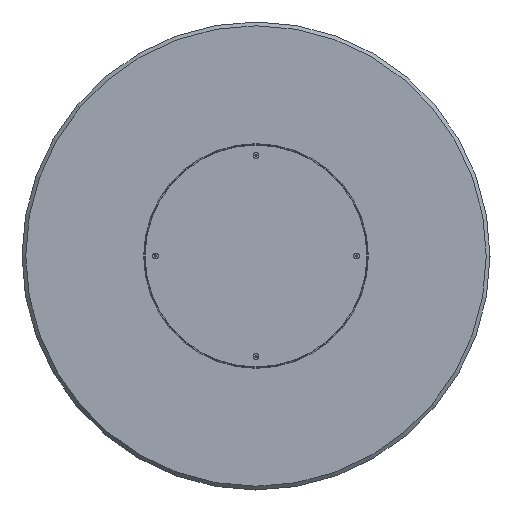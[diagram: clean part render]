
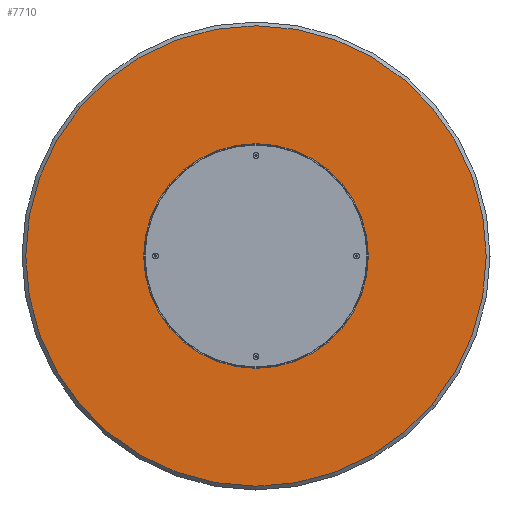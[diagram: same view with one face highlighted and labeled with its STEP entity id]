
A CAD part, front view. The second image highlights one B-rep face of the part: STEP entity #7710.
In plain terms, the highlighted planar face has unit normal (0, -1, 0).
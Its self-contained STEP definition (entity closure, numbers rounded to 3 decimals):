
#98 = DIRECTION ( 'NONE',  ( 0., 0., -1. ) ) ;
#197 = CARTESIAN_POINT ( 'NONE',  ( 0., 0., 0. ) ) ;
#894 = VERTEX_POINT ( 'NONE', #2449 ) ;
#1584 = CIRCLE ( 'NONE', #9527, 492. ) ;
#1903 = CARTESIAN_POINT ( 'NONE',  ( 0., 0., 0. ) ) ;
#2214 = AXIS2_PLACEMENT_3D ( 'NONE', #197, #9161, #98 ) ;
#2302 = ORIENTED_EDGE ( 'NONE', *, *, #3411, .T. ) ;
#2305 = DIRECTION ( 'NONE',  ( 0., -1., 0. ) ) ;
#2425 = FACE_OUTER_BOUND ( 'NONE', #5156, .T. ) ;
#2449 = CARTESIAN_POINT ( 'NONE',  ( 0., 0., -492. ) ) ;
#3372 = DIRECTION ( 'NONE',  ( 0., 0., -1. ) ) ;
#3411 = EDGE_CURVE ( 'NONE', #894, #5314, #8307, .T. ) ;
#4724 = EDGE_CURVE ( 'NONE', #5314, #894, #1584, .T. ) ;
#5061 = CARTESIAN_POINT ( 'NONE',  ( 0., 0., 492. ) ) ;
#5156 = EDGE_LOOP ( 'NONE', ( #7432, #2302 ) ) ;
#5314 = VERTEX_POINT ( 'NONE', #5061 ) ;
#5891 = DIRECTION ( 'NONE',  ( 0., 0., -1. ) ) ;
#6159 = PLANE ( 'NONE',  #2214 ) ;
#6362 = DIRECTION ( 'NONE',  ( 0., -1., 0. ) ) ;
#6605 = AXIS2_PLACEMENT_3D ( 'NONE', #8989, #2305, #5891 ) ;
#7432 = ORIENTED_EDGE ( 'NONE', *, *, #4724, .T. ) ;
#7710 = ADVANCED_FACE ( 'NONE', ( #2425 ), #6159, .T. ) ;
#8307 = CIRCLE ( 'NONE', #6605, 492. ) ;
#8989 = CARTESIAN_POINT ( 'NONE',  ( 0., 0., 0. ) ) ;
#9161 = DIRECTION ( 'NONE',  ( 0., -1., 0. ) ) ;
#9527 = AXIS2_PLACEMENT_3D ( 'NONE', #1903, #6362, #3372 ) ;
